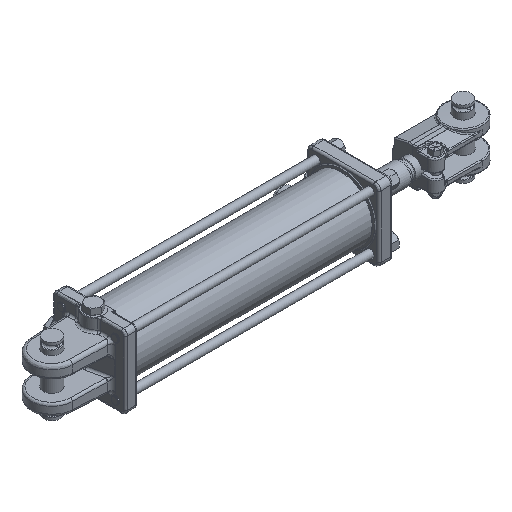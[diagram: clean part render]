
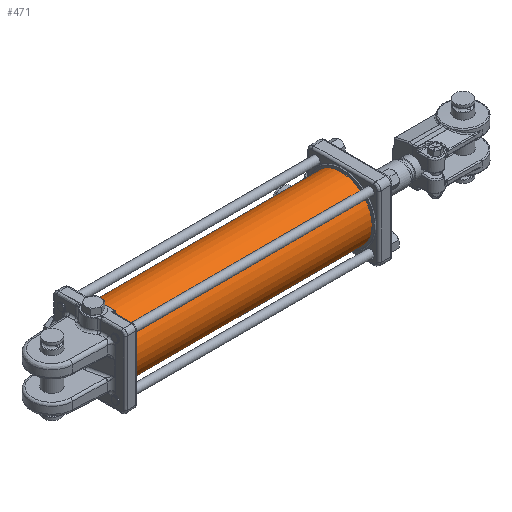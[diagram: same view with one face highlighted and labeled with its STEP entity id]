
A CAD part, isometric view. The second image highlights one B-rep face of the part: STEP entity #471.
In plain terms, the highlighted cylindrical face has radius 46.038 mm (diameter 92.075 mm), a full revolution.
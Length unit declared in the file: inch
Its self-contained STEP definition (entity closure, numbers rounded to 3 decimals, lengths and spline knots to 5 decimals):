
#210=CARTESIAN_POINT('',(-0.842,1.81168,0.0545));
#211=VERTEX_POINT('',#210);
#212=CARTESIAN_POINT('',(-0.842,1.81168,0.0545));
#213=CARTESIAN_POINT('',(-0.84884,1.81168,0.0545));
#214=CARTESIAN_POINT('',(-0.85614,1.81172,0.05313));
#215=CARTESIAN_POINT('',(-0.86957,1.81188,0.04757));
#216=CARTESIAN_POINT('',(-0.8757,1.81199,0.04338));
#217=CARTESIAN_POINT('',(-0.88538,1.81219,0.0337));
#218=CARTESIAN_POINT('',(-0.88957,1.8123,0.02757));
#219=CARTESIAN_POINT('',(-0.89513,1.81246,0.01414));
#220=CARTESIAN_POINT('',(-0.8965,1.8125,0.00684));
#221=CARTESIAN_POINT('',(-0.8965,1.8125,-0.00684));
#222=CARTESIAN_POINT('',(-0.89513,1.81246,-0.01414));
#223=CARTESIAN_POINT('',(-0.88957,1.8123,-0.02757));
#224=CARTESIAN_POINT('',(-0.88538,1.81219,-0.0337));
#225=CARTESIAN_POINT('',(-0.8757,1.81199,-0.04338));
#226=CARTESIAN_POINT('',(-0.86957,1.81188,-0.04757));
#227=CARTESIAN_POINT('',(-0.85614,1.81172,-0.05313));
#228=CARTESIAN_POINT('',(-0.84884,1.81168,-0.0545));
#229=CARTESIAN_POINT('',(-0.83516,1.81168,-0.0545));
#230=CARTESIAN_POINT('',(-0.82786,1.81172,-0.05313));
#231=CARTESIAN_POINT('',(-0.81443,1.81188,-0.04757));
#232=CARTESIAN_POINT('',(-0.8083,1.81199,-0.04338));
#233=CARTESIAN_POINT('',(-0.79862,1.81219,-0.0337));
#234=CARTESIAN_POINT('',(-0.79443,1.8123,-0.02757));
#235=CARTESIAN_POINT('',(-0.78887,1.81246,-0.01414));
#236=CARTESIAN_POINT('',(-0.7875,1.8125,-0.00684));
#237=CARTESIAN_POINT('',(-0.7875,1.8125,0.00684));
#238=CARTESIAN_POINT('',(-0.78887,1.81246,0.01414));
#239=CARTESIAN_POINT('',(-0.79443,1.8123,0.02757));
#240=CARTESIAN_POINT('',(-0.79862,1.81219,0.0337));
#241=CARTESIAN_POINT('',(-0.8083,1.81199,0.04338));
#242=CARTESIAN_POINT('',(-0.81443,1.81188,0.04757));
#243=CARTESIAN_POINT('',(-0.82786,1.81172,0.05313));
#244=CARTESIAN_POINT('',(-0.83516,1.81168,0.0545));
#245=CARTESIAN_POINT('',(-0.842,1.81168,0.0545));
#246=B_SPLINE_CURVE_WITH_KNOTS('',3,(#212,#213,#214,#215,#216,#217,#218,#219,#220,#221,#222,#223,#224,#225,#226,#227,#228,#229,#230,#231,#232,#233,#234,#235,#236,#237,#238,#239,#240,#241,#242,#243,#244,#245),.UNSPECIFIED.,.T.,.U.,(4,2,2,2,2,2,2,2,2,2,2,2,2,2,2,2,4),(0.0,0.05215,0.1043,0.15644,0.20859,0.26074,0.31289,0.36504,0.41718,0.46933,0.52148,0.57363,0.62578,0.67793,0.73007,0.78222,0.83437),.UNSPECIFIED.);
#247=EDGE_CURVE('',#211,#211,#246,.T.);
#298=CARTESIAN_POINT('',(-1.222,1.81223,0.031));
#299=VERTEX_POINT('',#298);
#300=CARTESIAN_POINT('',(-1.222,1.81223,0.031));
#301=CARTESIAN_POINT('',(-1.22589,1.81223,0.031));
#302=CARTESIAN_POINT('',(-1.23004,1.81225,0.03022));
#303=CARTESIAN_POINT('',(-1.23768,1.8123,0.02706));
#304=CARTESIAN_POINT('',(-1.24117,1.81233,0.02467));
#305=CARTESIAN_POINT('',(-1.24667,1.8124,0.01917));
#306=CARTESIAN_POINT('',(-1.24906,1.81244,0.01568));
#307=CARTESIAN_POINT('',(-1.25222,1.81249,0.00804));
#308=CARTESIAN_POINT('',(-1.253,1.8125,0.00389));
#309=CARTESIAN_POINT('',(-1.253,1.8125,-0.00389));
#310=CARTESIAN_POINT('',(-1.25222,1.81249,-0.00804));
#311=CARTESIAN_POINT('',(-1.24906,1.81244,-0.01568));
#312=CARTESIAN_POINT('',(-1.24667,1.8124,-0.01917));
#313=CARTESIAN_POINT('',(-1.24117,1.81233,-0.02467));
#314=CARTESIAN_POINT('',(-1.23768,1.8123,-0.02706));
#315=CARTESIAN_POINT('',(-1.23004,1.81225,-0.03022));
#316=CARTESIAN_POINT('',(-1.22589,1.81223,-0.031));
#317=CARTESIAN_POINT('',(-1.21811,1.81223,-0.031));
#318=CARTESIAN_POINT('',(-1.21396,1.81225,-0.03022));
#319=CARTESIAN_POINT('',(-1.20632,1.8123,-0.02706));
#320=CARTESIAN_POINT('',(-1.20283,1.81233,-0.02467));
#321=CARTESIAN_POINT('',(-1.19733,1.8124,-0.01917));
#322=CARTESIAN_POINT('',(-1.19494,1.81244,-0.01568));
#323=CARTESIAN_POINT('',(-1.19178,1.81249,-0.00804));
#324=CARTESIAN_POINT('',(-1.191,1.8125,-0.00389));
#325=CARTESIAN_POINT('',(-1.191,1.8125,0.00389));
#326=CARTESIAN_POINT('',(-1.19178,1.81249,0.00804));
#327=CARTESIAN_POINT('',(-1.19494,1.81244,0.01568));
#328=CARTESIAN_POINT('',(-1.19733,1.8124,0.01917));
#329=CARTESIAN_POINT('',(-1.20283,1.81233,0.02467));
#330=CARTESIAN_POINT('',(-1.20632,1.8123,0.02706));
#331=CARTESIAN_POINT('',(-1.21396,1.81225,0.03022));
#332=CARTESIAN_POINT('',(-1.21811,1.81223,0.031));
#333=CARTESIAN_POINT('',(-1.222,1.81223,0.031));
#334=B_SPLINE_CURVE_WITH_KNOTS('',3,(#300,#301,#302,#303,#304,#305,#306,#307,#308,#309,#310,#311,#312,#313,#314,#315,#316,#317,#318,#319,#320,#321,#322,#323,#324,#325,#326,#327,#328,#329,#330,#331,#332,#333),.UNSPECIFIED.,.T.,.U.,(4,2,2,2,2,2,2,2,2,2,2,2,2,2,2,2,4),(0.0,0.02966,0.05932,0.08898,0.11864,0.1483,0.17797,0.20763,0.23729,0.26695,0.29661,0.32627,0.35593,0.38559,0.41525,0.44491,0.47457),.UNSPECIFIED.);
#335=EDGE_CURVE('',#299,#299,#334,.T.);
#345=CARTESIAN_POINT('',(0.,1.8125,0.0));
#346=VERTEX_POINT('',#345);
#347=CARTESIAN_POINT('',(0.,0.0,0.0));
#348=DIRECTION('',(1.0,0.0,0.0));
#349=DIRECTION('',(0.0,1.0,0.0));
#350=AXIS2_PLACEMENT_3D('',#347,#348,#349);
#351=CIRCLE('',#350,1.8125);
#352=EDGE_CURVE('',#346,#346,#351,.T.);
#439=CARTESIAN_POINT('',(-14.09375,1.8125,0.0));
#440=VERTEX_POINT('',#439);
#441=CARTESIAN_POINT('',(-14.09375,0.0,0.0));
#442=DIRECTION('',(1.0,0.0,0.0));
#443=DIRECTION('',(0.0,1.0,0.0));
#444=AXIS2_PLACEMENT_3D('',#441,#442,#443);
#445=CIRCLE('',#444,1.8125);
#446=EDGE_CURVE('',#440,#440,#445,.T.);
#454=CARTESIAN_POINT('',(-7.04688,0.0,0.0));
#455=DIRECTION('',(1.0,0.0,0.0));
#456=DIRECTION('',(0.0,1.0,0.0));
#457=AXIS2_PLACEMENT_3D('',#454,#455,#456);
#458=CYLINDRICAL_SURFACE('',#457,1.8125);
#459=ORIENTED_EDGE('',*,*,#352,.F.);
#460=EDGE_LOOP('',(#459));
#461=FACE_OUTER_BOUND('',#460,.T.);
#462=ORIENTED_EDGE('',*,*,#247,.T.);
#463=EDGE_LOOP('',(#462));
#464=FACE_BOUND('',#463,.T.);
#465=ORIENTED_EDGE('',*,*,#335,.T.);
#466=EDGE_LOOP('',(#465));
#467=FACE_BOUND('',#466,.T.);
#468=ORIENTED_EDGE('',*,*,#446,.T.);
#469=EDGE_LOOP('',(#468));
#470=FACE_BOUND('',#469,.T.);
#471=ADVANCED_FACE('',(#461,#464,#467,#470),#458,.T.);
